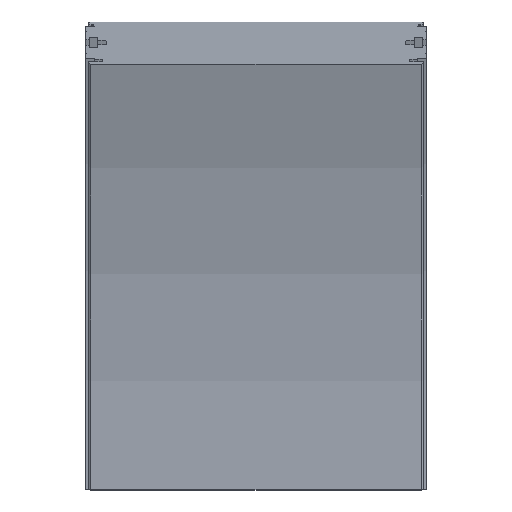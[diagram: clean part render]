
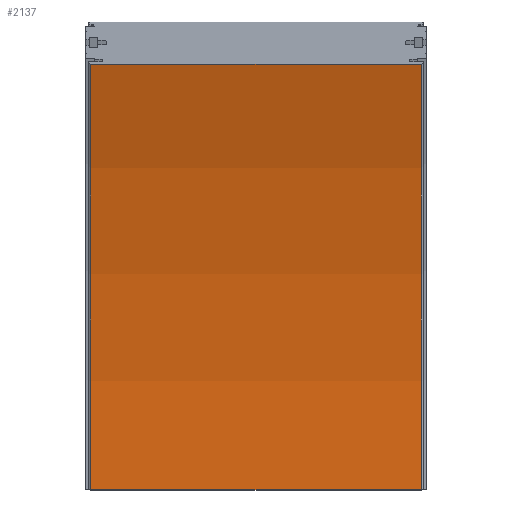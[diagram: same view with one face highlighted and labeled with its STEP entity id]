
A CAD part, top view. The second image highlights one B-rep face of the part: STEP entity #2137.
In plain terms, the highlighted cylindrical face has radius 818 mm (diameter 1636 mm), a partial arc.
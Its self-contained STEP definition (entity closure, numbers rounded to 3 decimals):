
#62=CYLINDRICAL_SURFACE('',#2337,818.);
#225=CIRCLE('',#2336,818.);
#226=CIRCLE('',#2338,818.);
#336=FACE_OUTER_BOUND('',#454,.T.);
#454=EDGE_LOOP('',(#1769,#1770,#1771,#1772));
#615=LINE('',#8201,#793);
#616=LINE('',#8203,#794);
#793=VECTOR('',#2838,10.);
#794=VECTOR('',#2839,10.);
#1005=VERTEX_POINT('',#8194);
#1006=VERTEX_POINT('',#8196);
#1007=VERTEX_POINT('',#8200);
#1008=VERTEX_POINT('',#8202);
#1304=EDGE_CURVE('',#1005,#1006,#225,.T.);
#1305=EDGE_CURVE('',#1007,#1005,#615,.T.);
#1306=EDGE_CURVE('',#1008,#1006,#616,.T.);
#1307=EDGE_CURVE('',#1007,#1008,#226,.T.);
#1769=ORIENTED_EDGE('',*,*,#1305,.T.);
#1770=ORIENTED_EDGE('',*,*,#1304,.T.);
#1771=ORIENTED_EDGE('',*,*,#1306,.F.);
#1772=ORIENTED_EDGE('',*,*,#1307,.F.);
#2137=ADVANCED_FACE('',(#336),#62,.F.);
#2336=AXIS2_PLACEMENT_3D('',#8198,#2834,#2835);
#2337=AXIS2_PLACEMENT_3D('',#8199,#2836,#2837);
#2338=AXIS2_PLACEMENT_3D('',#8204,#2840,#2841);
#2834=DIRECTION('center_axis',(1.,0.,0.));
#2835=DIRECTION('ref_axis',(0.,0.,-1.));
#2836=DIRECTION('center_axis',(1.,0.,0.));
#2837=DIRECTION('ref_axis',(0.,0.,-1.));
#2838=DIRECTION('',(1.,0.,0.));
#2839=DIRECTION('',(1.,0.,0.));
#2840=DIRECTION('center_axis',(1.,0.,0.));
#2841=DIRECTION('ref_axis',(0.,0.,
-1.));
#8194=CARTESIAN_POINT('',(108.5,0.,42.));
#8196=CARTESIAN_POINT('',(108.5,279.772,91.331));
#8198=CARTESIAN_POINT('Origin',(108.5,0.,
860.));
#8199=CARTESIAN_POINT('Origin',(-54.25,0.,860.));
#8200=CARTESIAN_POINT('',(-108.5,0.,42.));
#8201=CARTESIAN_POINT('',(-108.5,0.,42.));
#8202=CARTESIAN_POINT('',(-108.5,279.772,91.331));
#8203=CARTESIAN_POINT('',(-108.5,279.772,91.331));
#8204=CARTESIAN_POINT('Origin',(-108.5,0.,
860.));
